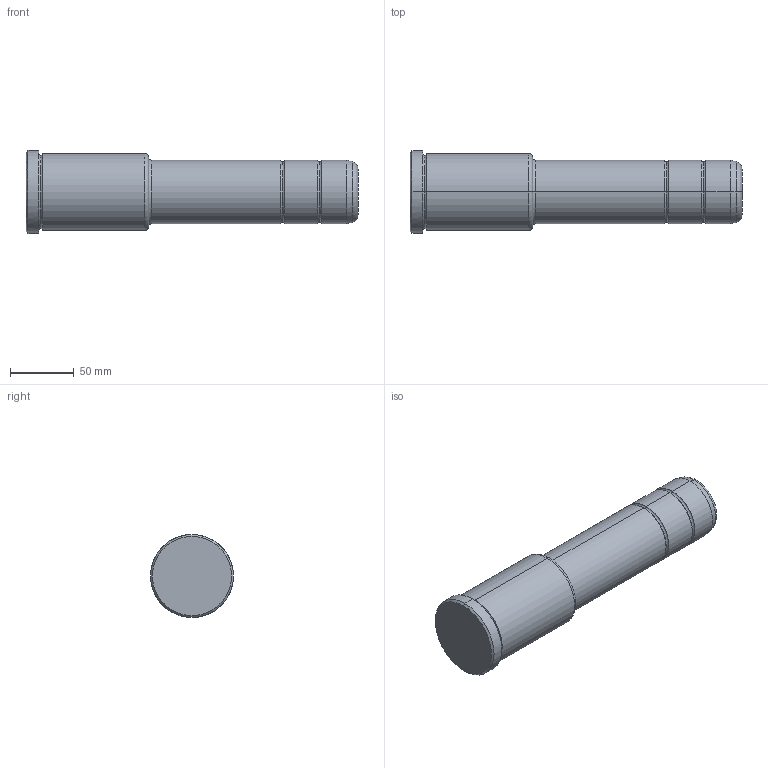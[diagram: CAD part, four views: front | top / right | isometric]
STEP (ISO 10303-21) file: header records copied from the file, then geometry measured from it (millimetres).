
FILE_DESCRIPTION(('CATIA V5 STEP Exchange'),'2;1');
FILE_NAME('C:\Users\Utente\Desktop\IO LAVORO\3D X SITO CF\X SITO\PLASTICA\351\351-50X96X260.stp','2021-11-08T18:55:23+00:00',('none'),('none'),'CATIA Version 5 Release 20 GA (IN-10)','CATIA V5 STEP AP203','none');
FILE_SCHEMA(('CONFIG_CONTROL_DESIGN'));
Length unit declared in the file: millimetre
Products named in the file (1): 351-50X96X260
Bounding box: 260 x 65 x 65 mm (x, y, z)
Volume: 593969.1 mm3; surface area: 50280.5 mm2
Topology: 1 solids, 1 shells, 35 faces, 98 edges, 66 vertices
Faces by surface type: torus 18, cylinder 10, cone 4, plane 3
Entity records: 1198 total; most frequent: CARTESIAN_POINT 256, ORIENTED_EDGE 196, DIRECTION 164, AXIS2_PLACEMENT_3D 116, EDGE_CURVE 98, CIRCLE 80, VERTEX_POINT 66, EDGE_LOOP 36
